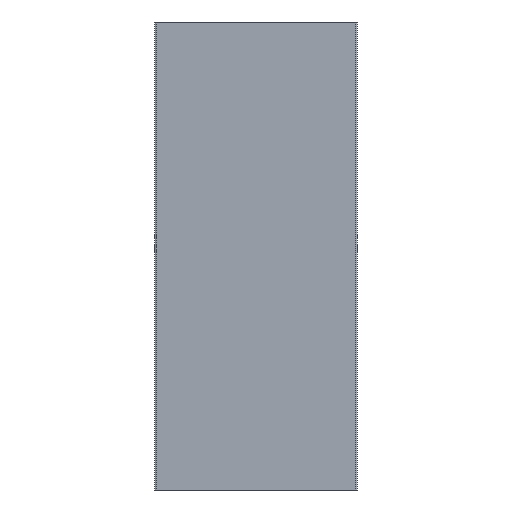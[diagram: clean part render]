
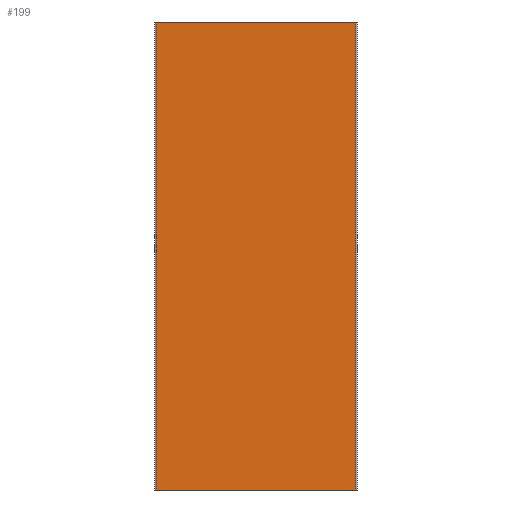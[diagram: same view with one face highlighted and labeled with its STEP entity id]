
A CAD part, front view. The second image highlights one B-rep face of the part: STEP entity #199.
In plain terms, the highlighted planar face has unit normal (0, -1, 0).
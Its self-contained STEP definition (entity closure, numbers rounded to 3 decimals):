
#50 = VERTEX_POINT ( 'NONE', #745 ) ;
#57 = EDGE_CURVE ( 'NONE', #345, #122, #818, .T. ) ;
#91 = EDGE_CURVE ( 'NONE', #167, #345, #1082, .T. ) ;
#122 = VERTEX_POINT ( 'NONE', #1230 ) ;
#167 = VERTEX_POINT ( 'NONE', #1358 ) ;
#173 = ORIENTED_EDGE ( 'NONE', *, *, #91, .F. ) ;
#183 = ORIENTED_EDGE ( 'NONE', *, *, #1551, .T. ) ;
#199 = ADVANCED_FACE ( 'NONE', ( #881 ), #882, .F. ) ;
#345 = VERTEX_POINT ( 'NONE', #854 ) ;
#511 = LINE ( 'NONE', #512, #513 ) ;
#512 = CARTESIAN_POINT ( 'NONE',  ( -32., 0., 150. ) ) ;
#513 = VECTOR ( 'NONE', #514, 1000. ) ;
#514 = DIRECTION ( 'NONE',  ( 0., 0., -1. ) ) ;
#567 = EDGE_CURVE ( 'NONE', #50, #122, #1163, .T. ) ;
#605 = ORIENTED_EDGE ( 'NONE', *, *, #57, .F. ) ;
#732 = ORIENTED_EDGE ( 'NONE', *, *, #567, .T. ) ;
#745 = CARTESIAN_POINT ( 'NONE',  ( -32., 0., 0. ) ) ;
#818 = LINE ( 'NONE', #819, #820 ) ;
#819 = CARTESIAN_POINT ( 'NONE',  ( 32., 0., 150. ) ) ;
#820 = VECTOR ( 'NONE', #821, 1000. ) ;
#821 = DIRECTION ( 'NONE',  ( 0., 0., -1. ) ) ;
#854 = CARTESIAN_POINT ( 'NONE',  ( 32., 0., 150. ) ) ;
#881 = FACE_OUTER_BOUND ( 'NONE', #920, .T. ) ;
#882 = PLANE ( 'NONE',  #888 ) ;
#888 = AXIS2_PLACEMENT_3D ( 'NONE', #889, #890, #891 ) ;
#889 = CARTESIAN_POINT ( 'NONE',  ( 32., 0., 150. ) ) ;
#890 = DIRECTION ( 'NONE',  ( 0., 1., 0. ) ) ;
#891 = DIRECTION ( 'NONE',  ( 0., 0., 1. ) ) ;
#920 = EDGE_LOOP ( 'NONE', ( #732, #605, #173, #183 ) ) ;
#1082 = LINE ( 'NONE', #1083, #1084 ) ;
#1083 = CARTESIAN_POINT ( 'NONE',  ( 32., 0., 150. ) ) ;
#1084 = VECTOR ( 'NONE', #1085, 1000. ) ;
#1085 = DIRECTION ( 'NONE',  ( 1., 0., 0. ) ) ;
#1163 = LINE ( 'NONE', #1164, #1165 ) ;
#1164 = CARTESIAN_POINT ( 'NONE',  ( 32., 0., 0. ) ) ;
#1165 = VECTOR ( 'NONE', #1166, 1000. ) ;
#1166 = DIRECTION ( 'NONE',  ( 1., 0., 0. ) ) ;
#1230 = CARTESIAN_POINT ( 'NONE',  ( 32., 0., 0. ) ) ;
#1358 = CARTESIAN_POINT ( 'NONE',  ( -32., 0., 150. ) ) ;
#1551 = EDGE_CURVE ( 'NONE', #167, #50, #511, .T. ) ;
